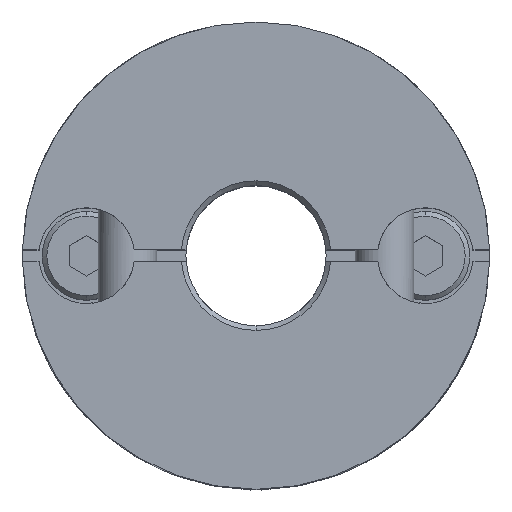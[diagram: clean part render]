
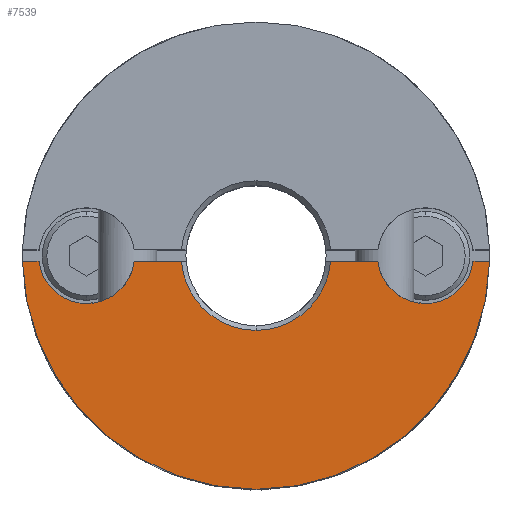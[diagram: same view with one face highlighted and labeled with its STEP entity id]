
A CAD part, top view. The second image highlights one B-rep face of the part: STEP entity #7539.
In plain terms, the highlighted planar face has unit normal (0, 0, 1).
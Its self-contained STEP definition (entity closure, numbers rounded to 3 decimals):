
#809=CARTESIAN_POINT('',(0.,-10.,9.4));
#810=VERTEX_POINT('',#809);
#817=CARTESIAN_POINT('',(-9.997,-0.25,9.4));
#818=VERTEX_POINT('',#817);
#819=CARTESIAN_POINT('',(0.,0.,9.4));
#820=DIRECTION('',(0.0,0.0,-1.0));
#821=DIRECTION('',(0.0,1.0,0.0));
#822=AXIS2_PLACEMENT_3D('',#819,#820,#821);
#823=CIRCLE('',#822,10.0);
#824=EDGE_CURVE('',#810,#818,#823,.T.);
#1024=CARTESIAN_POINT('',(0.,-3.2,9.4));
#1025=VERTEX_POINT('',#1024);
#1033=CARTESIAN_POINT('',(-3.19,-0.25,9.4));
#1034=VERTEX_POINT('',#1033);
#1048=CARTESIAN_POINT('',(0.,0.,9.4));
#1049=DIRECTION('',(0.0,0.0,1.0));
#1050=DIRECTION('',(0.0,-1.0,0.0));
#1051=AXIS2_PLACEMENT_3D('',#1048,#1049,#1050);
#1052=CIRCLE('',#1051,3.2);
#1053=EDGE_CURVE('',#1034,#1025,#1052,.T.);
#1345=CARTESIAN_POINT('',(-7.25,-2.05,9.4));
#1346=VERTEX_POINT('',#1345);
#1362=CARTESIAN_POINT('',(-9.285,-0.25,9.4));
#1363=VERTEX_POINT('',#1362);
#1370=CARTESIAN_POINT('',(-7.25,0.,9.4));
#1371=DIRECTION('',(0.0,0.0,-1.0));
#1372=DIRECTION('',(0.0,1.0,0.0));
#1373=AXIS2_PLACEMENT_3D('',#1370,#1371,#1372);
#1374=CIRCLE('',#1373,2.05);
#1375=EDGE_CURVE('',#1346,#1363,#1374,.T.);
#1693=CARTESIAN_POINT('',(7.25,-2.05,9.4));
#1694=VERTEX_POINT('',#1693);
#1772=CARTESIAN_POINT('',(5.215,-0.25,9.4));
#1773=VERTEX_POINT('',#1772);
#1780=CARTESIAN_POINT('',(7.25,0.,9.4));
#1781=DIRECTION('',(0.0,0.0,-1.0));
#1782=DIRECTION('',(0.0,1.0,0.0));
#1783=AXIS2_PLACEMENT_3D('',#1780,#1781,#1782);
#1784=CIRCLE('',#1783,2.05);
#1785=EDGE_CURVE('',#1694,#1773,#1784,.T.);
#5992=CARTESIAN_POINT('',(9.285,-0.25,9.4));
#5993=VERTEX_POINT('',#5992);
#5994=CARTESIAN_POINT('',(7.25,0.,9.4));
#5995=DIRECTION('',(0.0,0.0,-1.0));
#5996=DIRECTION('',(0.0,1.0,0.0));
#5997=AXIS2_PLACEMENT_3D('',#5994,#5995,#5996);
#5998=CIRCLE('',#5997,2.05);
#5999=EDGE_CURVE('',#5993,#1694,#5998,.T.);
#6444=CARTESIAN_POINT('',(-5.215,-0.25,9.4));
#6445=VERTEX_POINT('',#6444);
#6446=CARTESIAN_POINT('',(-7.25,0.,9.4));
#6447=DIRECTION('',(0.0,0.0,-1.0));
#6448=DIRECTION('',(0.0,1.0,0.0));
#6449=AXIS2_PLACEMENT_3D('',#6446,#6447,#6448);
#6450=CIRCLE('',#6449,2.05);
#6451=EDGE_CURVE('',#6445,#1346,#6450,.T.);
#6574=CARTESIAN_POINT('',(-3.19,-0.25,9.4));
#6575=DIRECTION('',(-1.0,0.0,0.0));
#6576=VECTOR('',#6575,2.025);
#6577=LINE('',#6574,#6576);
#6578=EDGE_CURVE('',#1034,#6445,#6577,.T.);
#6642=CARTESIAN_POINT('',(3.19,-0.25,9.4));
#6643=VERTEX_POINT('',#6642);
#6657=CARTESIAN_POINT('',(5.215,-0.25,9.4));
#6658=DIRECTION('',(-1.0,0.0,0.0));
#6659=VECTOR('',#6658,2.025);
#6660=LINE('',#6657,#6659);
#6661=EDGE_CURVE('',#1773,#6643,#6660,.T.);
#7317=CARTESIAN_POINT('',(9.997,-0.25,9.4));
#7318=VERTEX_POINT('',#7317);
#7319=CARTESIAN_POINT('',(9.997,-0.25,9.4));
#7320=DIRECTION('',(-1.0,0.0,0.0));
#7321=VECTOR('',#7320,0.712);
#7322=LINE('',#7319,#7321);
#7323=EDGE_CURVE('',#7318,#5993,#7322,.T.);
#7423=CARTESIAN_POINT('',(-9.285,-0.25,9.4));
#7424=DIRECTION('',(-1.0,0.0,0.0));
#7425=VECTOR('',#7424,0.712);
#7426=LINE('',#7423,#7425);
#7427=EDGE_CURVE('',#1363,#818,#7426,.T.);
#7508=CARTESIAN_POINT('',(0.,0.909,9.4));
#7509=DIRECTION('',(0.0,0.0,1.0));
#7510=DIRECTION('',(0.0,1.0,0.0));
#7511=AXIS2_PLACEMENT_3D('',#7508,#7509,#7510);
#7512=PLANE('',#7511);
#7513=ORIENTED_EDGE('',*,*,#5999,.T.);
#7514=ORIENTED_EDGE('',*,*,#1785,.T.);
#7515=ORIENTED_EDGE('',*,*,#6661,.T.);
#7516=CARTESIAN_POINT('',(0.,0.,9.4));
#7517=DIRECTION('',(0.0,0.0,1.0));
#7518=DIRECTION('',(0.0,-1.0,0.0));
#7519=AXIS2_PLACEMENT_3D('',#7516,#7517,#7518);
#7520=CIRCLE('',#7519,3.2);
#7521=EDGE_CURVE('',#1025,#6643,#7520,.T.);
#7522=ORIENTED_EDGE('',*,*,#7521,.F.);
#7523=ORIENTED_EDGE('',*,*,#1053,.F.);
#7524=ORIENTED_EDGE('',*,*,#6578,.T.);
#7525=ORIENTED_EDGE('',*,*,#6451,.T.);
#7526=ORIENTED_EDGE('',*,*,#1375,.T.);
#7527=ORIENTED_EDGE('',*,*,#7427,.T.);
#7528=ORIENTED_EDGE('',*,*,#824,.F.);
#7529=CARTESIAN_POINT('',(0.,0.,9.4));
#7530=DIRECTION('',(0.0,0.0,-1.0));
#7531=DIRECTION('',(0.0,1.0,0.0));
#7532=AXIS2_PLACEMENT_3D('',#7529,#7530,#7531);
#7533=CIRCLE('',#7532,10.0);
#7534=EDGE_CURVE('',#7318,#810,#7533,.T.);
#7535=ORIENTED_EDGE('',*,*,#7534,.F.);
#7536=ORIENTED_EDGE('',*,*,#7323,.T.);
#7537=EDGE_LOOP('',(#7513,#7514,#7515,#7522,#7523,#7524,#7525,#7526,#7527,#7528,#7535,#7536));
#7538=FACE_OUTER_BOUND('',#7537,.T.);
#7539=ADVANCED_FACE('',(#7538),#7512,.T.);
